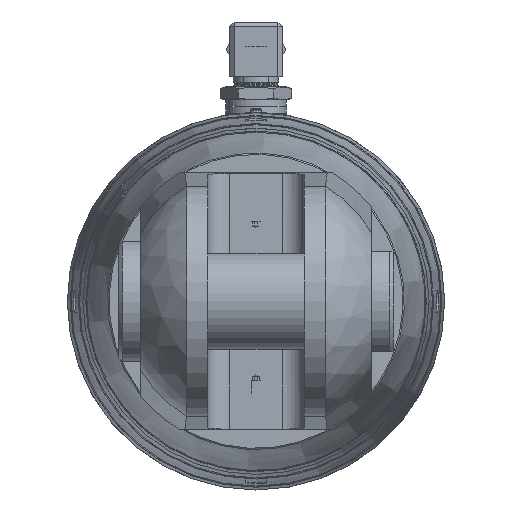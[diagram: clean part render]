
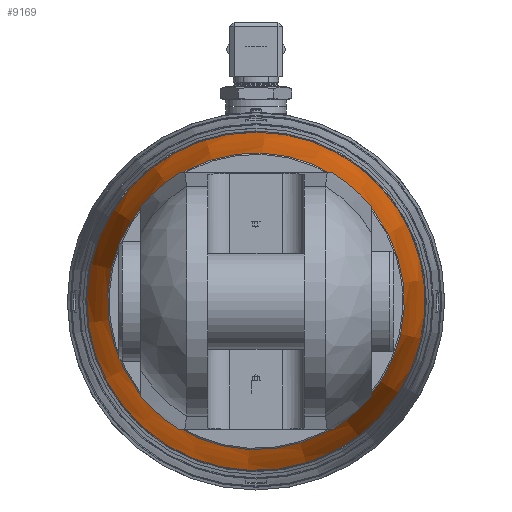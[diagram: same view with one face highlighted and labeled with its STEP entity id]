
A CAD part, left-side view. The second image highlights one B-rep face of the part: STEP entity #9169.
In plain terms, the highlighted conical face has half-angle 10 degrees and reference radius 73.574 mm.
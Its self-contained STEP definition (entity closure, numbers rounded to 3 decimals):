
#146=CONICAL_SURFACE('',#10136,73.574,0.175);
#1177=LINE('',#16885,#1759);
#1759=VECTOR('',#12601,73.574);
#2822=FACE_OUTER_BOUND('',#3369,.T.);
#3369=EDGE_LOOP('',(#8528,#8529,#8530,#8531,#8532,#8533));
#3814=CIRCLE('',#10134,78.601);
#3815=CIRCLE('',#10135,78.601);
#3816=CIRCLE('',#10137,68.547);
#3817=CIRCLE('',#10138,68.547);
#4715=VERTEX_POINT('',#16875);
#4716=VERTEX_POINT('',#16876);
#4717=VERTEX_POINT('',#16881);
#4718=VERTEX_POINT('',#16882);
#5992=EDGE_CURVE('',#4715,#4716,#3814,.T.);
#5993=EDGE_CURVE('',#4716,#4715,#3815,.T.);
#5995=EDGE_CURVE('',#4717,#4718,#3816,.T.);
#5996=EDGE_CURVE('',#4718,#4717,#3817,.T.);
#5997=EDGE_CURVE('',#4718,#4716,#1177,.T.);
#8528=ORIENTED_EDGE('',*,*,#5995,.F.);
#8529=ORIENTED_EDGE('',*,*,#5996,.F.);
#8530=ORIENTED_EDGE('',*,*,#5997,.T.);
#8531=ORIENTED_EDGE('',*,*,#5992,.F.);
#8532=ORIENTED_EDGE('',*,*,#5993,.F.);
#8533=ORIENTED_EDGE('',*,*,#5997,.F.);
#9169=ADVANCED_FACE('',(#2822),#146,.T.);
#10134=AXIS2_PLACEMENT_3D('',#16877,#12590,#12591);
#10135=AXIS2_PLACEMENT_3D('',#16878,#12592,#12593);
#10136=AXIS2_PLACEMENT_3D('',#16880,#12595,#12596);
#10137=AXIS2_PLACEMENT_3D('',#16883,#12597,#12598);
#10138=AXIS2_PLACEMENT_3D('',#16884,#12599,#12600);
#12590=DIRECTION('center_axis',(1.,0.,0.));
#12591=DIRECTION('ref_axis',(0.,0.605,0.796));
#12592=DIRECTION('center_axis',(1.,0.,0.));
#12593=DIRECTION('ref_axis',(0.,0.605,0.796));
#12595=DIRECTION('center_axis',(1.,0.,0.));
#12596=DIRECTION('ref_axis',(0.,-0.605,-0.796));
#12597=DIRECTION('center_axis',(-1.,0.,0.));
#12598=DIRECTION('ref_axis',(0.,0.605,0.796));
#12599=DIRECTION('center_axis',(-1.,0.,0.));
#12600=DIRECTION('ref_axis',(0.,0.605,0.796));
#12601=DIRECTION('',(0.985,0.105,0.138));
#16875=CARTESIAN_POINT('',(-1355.192,-47.581,-62.563));
#16876=CARTESIAN_POINT('',(-1355.192,47.581,62.563));
#16877=CARTESIAN_POINT('Origin',(-1355.192,0.,
0.));
#16878=CARTESIAN_POINT('Origin',(-1355.192,0.,
0.));
#16880=CARTESIAN_POINT('Origin',(-1383.7,0.,0.));
#16881=CARTESIAN_POINT('',(-1412.208,-41.495,-54.561));
#16882=CARTESIAN_POINT('',(-1412.208,41.495,54.561));
#16883=CARTESIAN_POINT('Origin',(-1412.208,0.,
0.));
#16884=CARTESIAN_POINT('Origin',(-1412.208,0.,
0.));
#16885=CARTESIAN_POINT('',(-1383.7,44.538,58.562));
